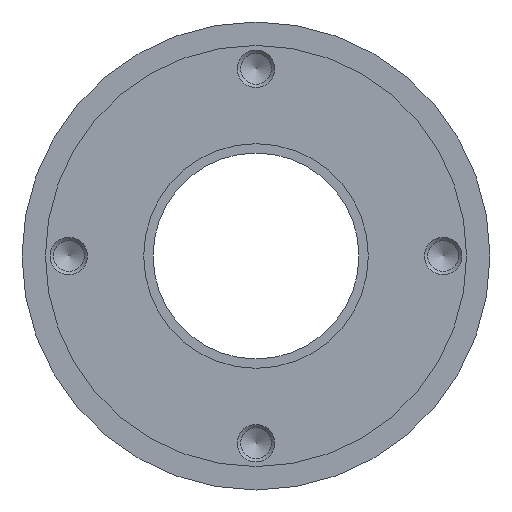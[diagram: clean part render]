
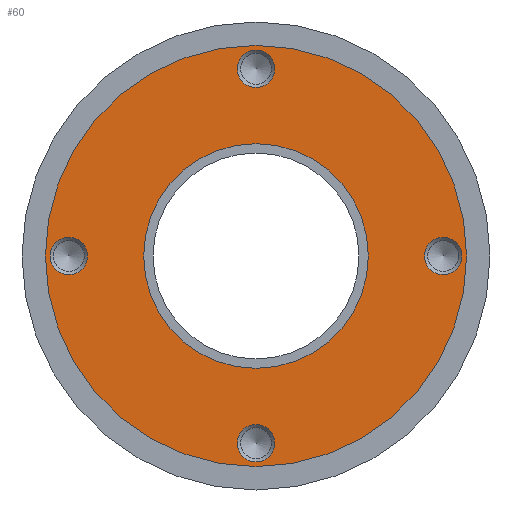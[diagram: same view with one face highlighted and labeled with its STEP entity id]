
A CAD part, left-side view. The second image highlights one B-rep face of the part: STEP entity #60.
In plain terms, the highlighted planar face has unit normal (-1, 0, 0).
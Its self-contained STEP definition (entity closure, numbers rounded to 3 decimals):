
#50=PLANE('',#312);
#60=ADVANCED_FACE('',(#100,#101,#102,#103,#104,#105),#50,.T.);
#100=FACE_BOUND('',#148,.T.);
#101=FACE_BOUND('',#149,.T.);
#102=FACE_BOUND('',#150,.T.);
#103=FACE_BOUND('',#151,.T.);
#104=FACE_BOUND('',#152,.T.);
#105=FACE_BOUND('',#153,.T.);
#148=EDGE_LOOP('',(#192));
#149=EDGE_LOOP('',(#193));
#150=EDGE_LOOP('',(#194));
#151=EDGE_LOOP('',(#195));
#152=EDGE_LOOP('',(#196));
#153=EDGE_LOOP('',(#197));
#192=ORIENTED_EDGE('',*,*,#254,.T.);
#193=ORIENTED_EDGE('',*,*,#255,.T.);
#194=ORIENTED_EDGE('',*,*,#256,.T.);
#195=ORIENTED_EDGE('',*,*,#257,.T.);
#196=ORIENTED_EDGE('',*,*,#245,.T.);
#197=ORIENTED_EDGE('',*,*,#253,.F.);
#219=VERTEX_POINT('',#427);
#227=VERTEX_POINT('',#451);
#228=VERTEX_POINT('',#454);
#229=VERTEX_POINT('',#456);
#230=VERTEX_POINT('',#458);
#231=VERTEX_POINT('',#460);
#245=EDGE_CURVE('',#219,#219,#267,.T.);
#253=EDGE_CURVE('',#227,#227,#275,.T.);
#254=EDGE_CURVE('',#228,#228,#276,.T.);
#255=EDGE_CURVE('',#229,#229,#277,.T.);
#256=EDGE_CURVE('',#230,#230,#278,.T.);
#257=EDGE_CURVE('',#231,#231,#279,.T.);
#267=CIRCLE('',#290,22.5);
#275=CIRCLE('',#306,12.);
#276=CIRCLE('',#308,2.);
#277=CIRCLE('',#309,2.);
#278=CIRCLE('',#310,2.);
#279=CIRCLE('',#311,2.);
#290=AXIS2_PLACEMENT_3D('',#426,#337,#338);
#306=AXIS2_PLACEMENT_3D('',#450,#369,#370);
#308=AXIS2_PLACEMENT_3D('',#453,#373,#374);
#309=AXIS2_PLACEMENT_3D('',#455,#375,#376);
#310=AXIS2_PLACEMENT_3D('',#457,#377,#378);
#311=AXIS2_PLACEMENT_3D('',#459,#379,#380);
#312=AXIS2_PLACEMENT_3D('',#461,#381,#382);
#337=DIRECTION('',(-1.,0.,0.));
#338=DIRECTION('',(0.,0.,1.));
#369=DIRECTION('',(-1.,0.,0.));
#370=DIRECTION('',(0.,0.,1.));
#373=DIRECTION('',(1.,0.,0.));
#374=DIRECTION('',(0.,0.,1.));
#375=DIRECTION('',(1.,0.,0.));
#376=DIRECTION('',(0.,0.,1.));
#377=DIRECTION('',(1.,0.,0.));
#378=DIRECTION('',(0.,0.,1.));
#379=DIRECTION('',(1.,0.,0.));
#380=DIRECTION('',(0.,0.,1.));
#381=DIRECTION('',(-1.,0.,0.));
#382=DIRECTION('',(0.,0.,1.));
#426=CARTESIAN_POINT('',(2564.633,1221.367,0.));
#427=CARTESIAN_POINT('',(2564.633,1221.367,22.5));
#450=CARTESIAN_POINT('',(2564.633,1221.367,0.));
#451=CARTESIAN_POINT('',(2564.633,1221.367,12.));
#453=CARTESIAN_POINT('',(2564.633,1221.367,20.));
#454=CARTESIAN_POINT('',(2564.633,1221.367,22.));
#455=CARTESIAN_POINT('',(2564.633,1241.367,0.));
#456=CARTESIAN_POINT('',(2564.633,1241.367,2.));
#457=CARTESIAN_POINT('',(2564.633,1221.367,-20.));
#458=CARTESIAN_POINT('',(2564.633,1221.367,-18.));
#459=CARTESIAN_POINT('',(2564.633,1201.367,0.));
#460=CARTESIAN_POINT('',(2564.633,1201.367,2.));
#461=CARTESIAN_POINT('',(2564.633,1242.756,0.));
